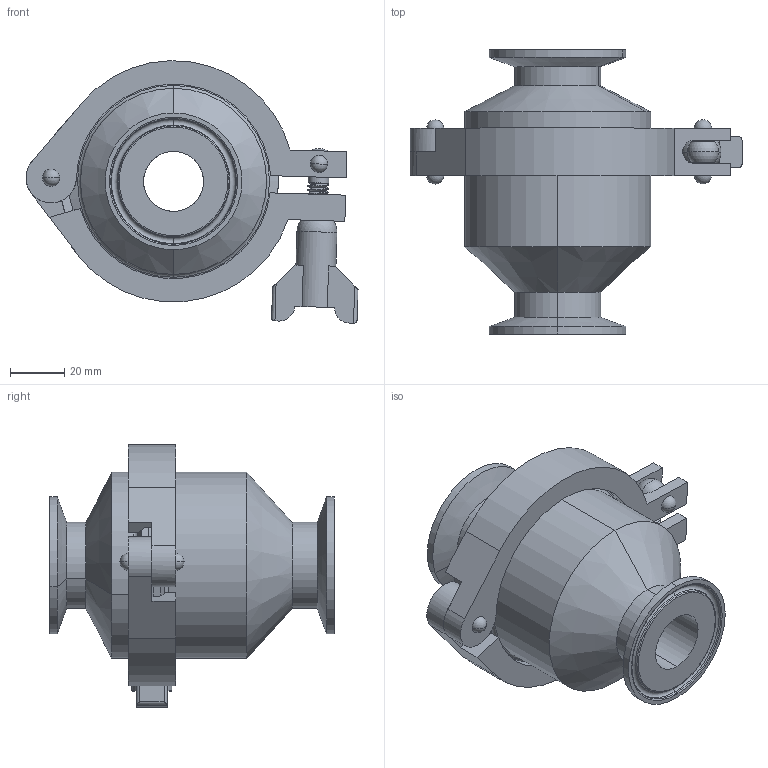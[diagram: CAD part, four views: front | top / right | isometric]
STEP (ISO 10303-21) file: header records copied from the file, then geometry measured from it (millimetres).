
FILE_DESCRIPTION (( 'STEP AP203' ), '1' );
FILE_NAME ('45C-6 1.0.STEP', '2019-11-14T20:37:49', ( 'vneprd' ), ( 'Microsoft' ), 'SwSTEP 2.0', 'SolidWorks 2018', '' );
FILE_SCHEMA (( 'CONFIG_CONTROL_DESIGN' ));
Length unit declared in the file: inch
Products named in the file (1): 45C-6 1.0
Bounding box: 122.27 x 104.78 x 96.69 mm (x, y, z)
Volume: 131725.4 mm3; surface area: 78807.1 mm2
Topology: 9 solids, 9 shells, 283 faces, 679 edges, 423 vertices
Faces by surface type: cylinder 126, plane 59, cone 41, torus 40, sphere 14, bspline 3
Entity records: 12589 total; most frequent: CARTESIAN_POINT 6084, DIRECTION 1391, ORIENTED_EDGE 1350, EDGE_CURVE 675, AXIS2_PLACEMENT_3D 568, VERTEX_POINT 421, EDGE_LOOP 312, CIRCLE 287
